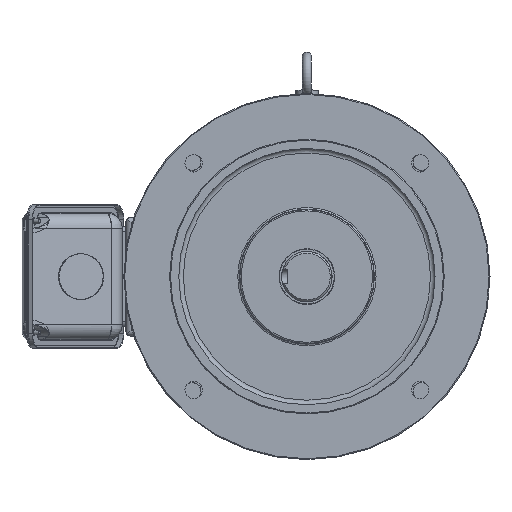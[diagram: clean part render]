
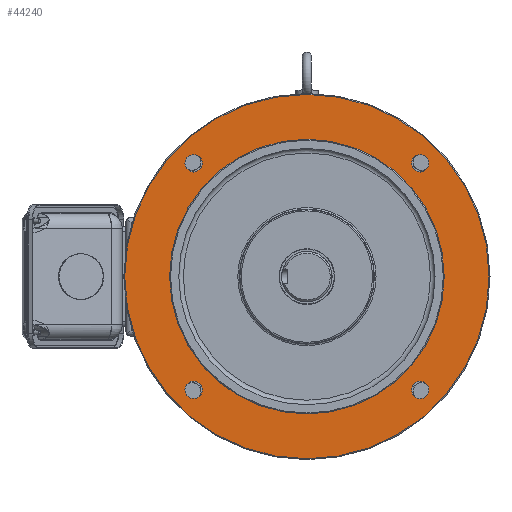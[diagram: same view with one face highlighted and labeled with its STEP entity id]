
A CAD part, front view. The second image highlights one B-rep face of the part: STEP entity #44240.
In plain terms, the highlighted planar face has unit normal (0, -1, 0).
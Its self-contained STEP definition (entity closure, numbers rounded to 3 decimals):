
#673=PLANE('',#47122);
#1944=CIRCLE('',#47105,150.);
#1955=CIRCLE('',#47123,199.);
#1956=CIRCLE('',#47124,9.5);
#1957=CIRCLE('',#47125,9.5);
#1958=CIRCLE('',#47126,9.5);
#1959=CIRCLE('',#47127,9.5);
#11642=ORIENTED_EDGE('',*,*,#21646,.T.);
#11643=ORIENTED_EDGE('',*,*,#21635,.F.);
#11644=ORIENTED_EDGE('',*,*,#21647,.F.);
#11645=ORIENTED_EDGE('',*,*,#21648,.F.);
#11646=ORIENTED_EDGE('',*,*,#21649,.F.);
#11647=ORIENTED_EDGE('',*,*,#21650,.F.);
#21635=EDGE_CURVE('',#26838,#26838,#1944,.T.);
#21646=EDGE_CURVE('',#26849,#26849,#1955,.F.);
#21647=EDGE_CURVE('',#26850,#26850,#1956,.T.);
#21648=EDGE_CURVE('',#26851,#26851,#1957,.T.);
#21649=EDGE_CURVE('',#26852,#26852,#1958,.T.);
#21650=EDGE_CURVE('',#26853,#26853,#1959,.T.);
#26838=VERTEX_POINT('',#68553);
#26849=VERTEX_POINT('',#68582);
#26850=VERTEX_POINT('',#68584);
#26851=VERTEX_POINT('',#68586);
#26852=VERTEX_POINT('',#68588);
#26853=VERTEX_POINT('',#68590);
#30307=EDGE_LOOP('',(#11642));
#30308=EDGE_LOOP('',(#11643));
#30309=EDGE_LOOP('',(#11644));
#30310=EDGE_LOOP('',(#11645));
#30311=EDGE_LOOP('',(#11646));
#30312=EDGE_LOOP('',(#11647));
#33067=FACE_BOUND('',#30307,.T.);
#33068=FACE_BOUND('',#30308,.T.);
#33069=FACE_BOUND('',#30309,.T.);
#33070=FACE_BOUND('',#30310,.T.);
#33071=FACE_BOUND('',#30311,.T.);
#33072=FACE_BOUND('',#30312,.T.);
#44240=ADVANCED_FACE('',(#33067,#33068,#33069,#33070,#33071,#33072),#673,
 .F.);
#47105=AXIS2_PLACEMENT_3D('',#68552,#52871,#52872);
#47122=AXIS2_PLACEMENT_3D('',#68580,#52905,#52906);
#47123=AXIS2_PLACEMENT_3D('',#68581,#52907,#52908);
#47124=AXIS2_PLACEMENT_3D('',#68583,#52909,#52910);
#47125=AXIS2_PLACEMENT_3D('',#68585,#52911,#52912);
#47126=AXIS2_PLACEMENT_3D('',#68587,#52913,#52914);
#47127=AXIS2_PLACEMENT_3D('',#68589,#52915,#52916);
#52871=DIRECTION('',(0.,-1.,0.));
#52872=DIRECTION('',(0.,0.,-1.));
#52905=DIRECTION('',(0.,1.,0.));
#52906=DIRECTION('',(0.,0.,1.));
#52907=DIRECTION('',(0.,1.,0.));
#52908=DIRECTION('',(0.,0.,1.));
#52909=DIRECTION('',(0.,-1.,0.));
#52910=DIRECTION('',(-1.,0.,0.));
#52911=DIRECTION('',(0.,-1.,0.));
#52912=DIRECTION('',(0.,0.,1.));
#52913=DIRECTION('',(0.,-1.,0.));
#52914=DIRECTION('',(0.,0.,-1.));
#52915=DIRECTION('',(0.,-1.,0.));
#52916=DIRECTION('',(1.,0.,0.));
#68552=CARTESIAN_POINT('',(0.,5.,0.));
#68553=CARTESIAN_POINT('',(0.,5.,-150.));
#68580=CARTESIAN_POINT('',(0.,5.,200.));
#68581=CARTESIAN_POINT('',(0.,5.,0.));
#68582=CARTESIAN_POINT('',(0.,5.,199.));
#68583=CARTESIAN_POINT('',(-123.744,5.,123.744));
#68584=CARTESIAN_POINT('',(-133.244,5.,123.744));
#68585=CARTESIAN_POINT('',(123.744,5.,123.744));
#68586=CARTESIAN_POINT('',(123.744,5.,133.244));
#68587=CARTESIAN_POINT('',(-123.744,5.,-123.744));
#68588=CARTESIAN_POINT('',(-123.744,5.,-133.244));
#68589=CARTESIAN_POINT('',(123.744,5.,-123.744));
#68590=CARTESIAN_POINT('',(133.244,5.,-123.744));
